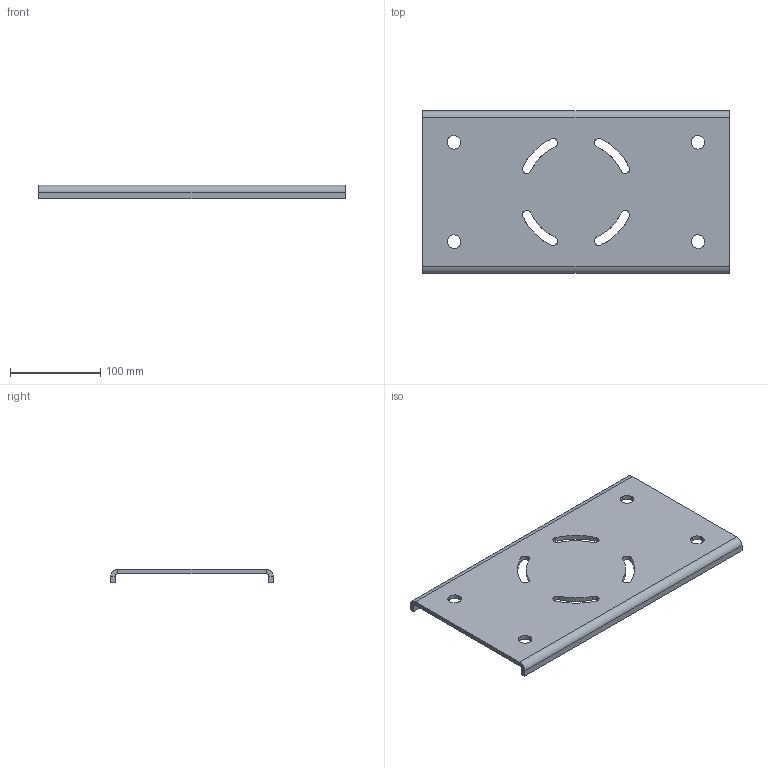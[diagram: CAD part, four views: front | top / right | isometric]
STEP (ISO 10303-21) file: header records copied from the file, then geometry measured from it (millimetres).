
FILE_DESCRIPTION(('CATIA V5 STEP Exchange'),'2;1');
FILE_NAME('C:\Users\Administrator\Desktop\GZ31.11_V1.stp','2021-06-05T03:44:34+00:00',('none'),('none'),'CATIA Version 5 Release 20 GA (IN-10)','CATIA V5 STEP AP214','none');
FILE_SCHEMA(('AUTOMOTIVE_DESIGN { 1 0 10303 214 1 1 1 1 }'));
Length unit declared in the file: millimetre
Products named in the file (1): 1
Bounding box: 340 x 180 x 15 mm (x, y, z)
Volume: 318491.2 mm3; surface area: 135995.6 mm2
Topology: 1 solids, 1 shells, 54 faces, 140 edges, 88 vertices
Faces by surface type: cylinder 36, plane 18
Entity records: 1810 total; most frequent: CARTESIAN_POINT 507, ORIENTED_EDGE 280, DIRECTION 216, EDGE_CURVE 140, AXIS2_PLACEMENT_3D 95, VERTEX_POINT 88, EDGE_LOOP 70, VECTOR 68
